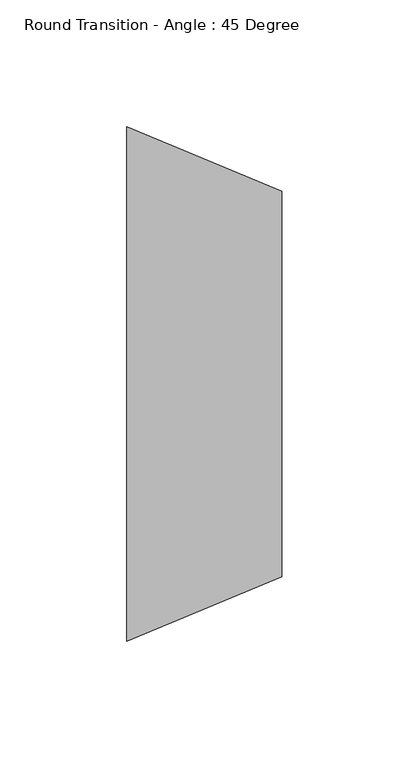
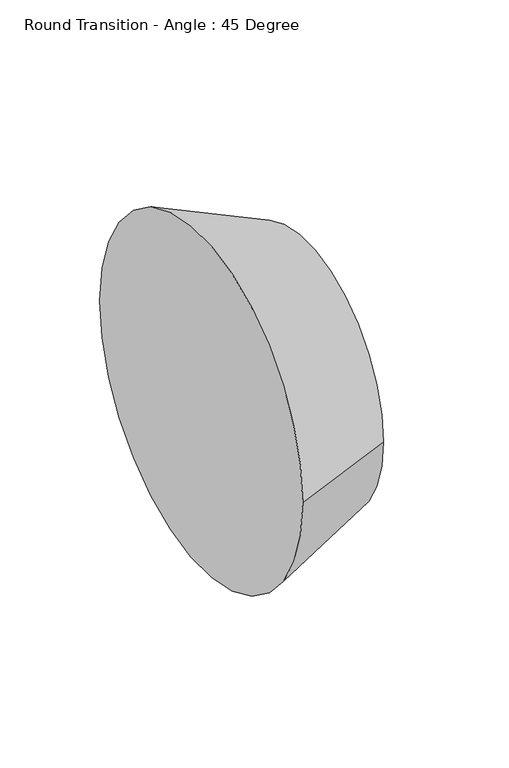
"""IFC4 building model written with IfcOpenShell, lengths in millimetres: duct fitting geometry, Round Transition - Angle : 45 Degree."""

from ifc_helpers import new_model, si_unit, frame, origin, place, context, project, spatial, polyline, circle_curve, source, transform, mapped, element, save
from ifc_brep_helpers import plane_surface, revolved_surface, advanced_brep


def round_transition_angle_45_degree_d2c7fbb0(model_context):
    return source(origin(), model_context, "Body", "AdvancedBrep", [
        advanced_brep(
        [(61.3210245, -76.2, 0.0), (61.3210245, 76.2, 0.0), (0.0, -101.6, 0.0), (0.0, 101.6, 0.0)],
        [
            (0, 1, circle_curve(frame((61.3210245, 0.0, 0.0), z_axis=(1.0, 0.0, 0.0), x_axis=(0.0, -1.0, 0.0)), 76.2)),
            (1, 0, circle_curve(frame((61.3210245, 0.0, 0.0), z_axis=(1.0, 0.0, 0.0), x_axis=(0.0, 1.0, 0.0)), 76.2)),
            (2, 3, circle_curve(frame((0.0, 0.0, 0.0), z_axis=(-1.0, 0.0, 0.0), x_axis=(0.0, 1.0, 0.0)), 101.6)),
            (3, 2, circle_curve(frame((0.0, 0.0, 0.0), z_axis=(-1.0, 0.0, 0.0), x_axis=(0.0, -1.0, 0.0)), 101.6)),
            (3, 1),
            (0, 2),
        ],
        [
            plane_surface(frame((61.3210245, 0.0, 0.0), z_axis=(1.0, 0.0, 0.0), x_axis=(0.0, 0.0, -1.0))),
            plane_surface(frame((0.0, 0.0, 0.0), z_axis=(-1.0, 0.0, 0.0), x_axis=(0.0, 0.0, -1.0))),
            revolved_surface(polyline([(61.32102449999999, -76.19999998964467, 0.0), (0.0, -101.6, 0.0)]), (245.2840979, 0.0, 0.0), (-1.0, 0.0, 0.0)),
            revolved_surface(polyline([(61.32102449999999, 76.19999998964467, 0.0), (0.0, 101.6, 0.0)]), (245.2840979, 0.0, 0.0), (-1.0, 0.0, 0.0)),
        ],
        [
            (0, [[1, 2]]),
            (1, [[3, 4]]),
            (2, [[-4, 5, -1, 6]]),
            (3, [[-3, -6, -2, -5]]),
        ],
    ),
    ])


if __name__ == "__main__":
    model = new_model("IFC4")
    model_context = context("Model", 3, world=origin())
    ifc_project = project(units=[si_unit("LENGTHUNIT", "METRE", prefix="MILLI")], contexts=[model_context])
    site = spatial("IfcSite", under=ifc_project)
    building = spatial("IfcBuilding", under=site)
    placement = place(None, origin())
    round_transition_angle_45_degree_shape = round_transition_angle_45_degree_d2c7fbb0(model_context)
    element("IfcDuctFitting", 1, ObjectType="Round Transition - Angle : 45 Degree", at=placement, inside=building, context=model_context, shape_type="MappedRepresentation", body=[
        mapped(round_transition_angle_45_degree_shape, transform((0.0, 0.0, 0.0), x_axis=(1.0, 0.0, 0.0), y_axis=(0.0, 1.0, 0.0), z_axis=(0.0, 0.0, 1.0))),
    ])
    save(model, "model.ifc")
